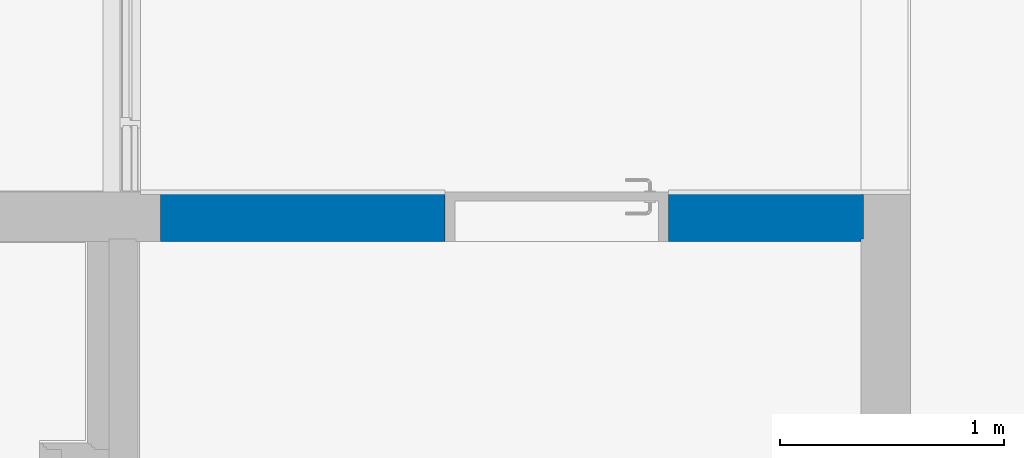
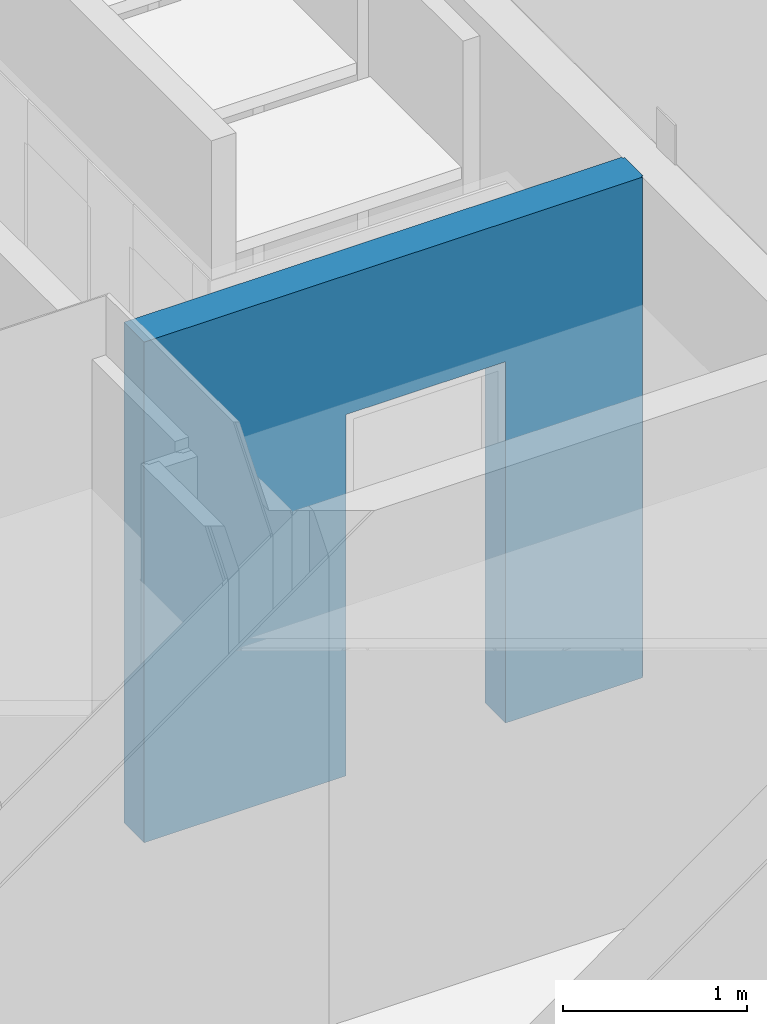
# One storey, part 117 of 246: 1 wall, 1 opening.
"""IFC2X3 building model written with IfcOpenShell, lengths in millimetres."""

from ifc_helpers import new_model, entity, si_unit, converted_unit, derived_unit, money_unit, direction, frame, origin_with_axes, place, context, subcontext, project, spatial, faceted_brep, material, material_list, type_object, element, save


model = new_model("IFC2X3")

# Units and contexts
model_context = context("Model", 3, precision=0.01, world=origin_with_axes(), true_north=direction((0.0, 1.0)))
body_context = subcontext(model_context, "Body", "Model", "MODEL_VIEW")
ifc_project = project(units=[si_unit("LENGTHUNIT", "METRE", prefix="MILLI"), si_unit("AREAUNIT", "SQUARE_METRE"), si_unit("VOLUMEUNIT", "CUBIC_METRE"), converted_unit("PLANEANGLEUNIT", "DEGREE", entity("IfcPlaneAngleMeasure", 0.0174532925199), si_unit("PLANEANGLEUNIT", "RADIAN"), dimensions=[0, 0, 0, 0, 0, 0, 0]), si_unit("SOLIDANGLEUNIT", "STERADIAN"), money_unit("EUR"), converted_unit("TIMEUNIT", "Year", entity("IfcTimeMeasure", 31556926.0), si_unit("TIMEUNIT", "SECOND"), dimensions=[0, 0, 1, 0, 0, 0, 0]), si_unit("MASSUNIT", "GRAM", prefix="KILO"), si_unit("THERMODYNAMICTEMPERATUREUNIT", "DEGREE_CELSIUS"), si_unit("LUMINOUSINTENSITYUNIT", "LUMEN"), si_unit("ENERGYUNIT", "JOULE", prefix="MEGA"), derived_unit("THERMALCONDUCTANCEUNIT", [(si_unit("POWERUNIT", "WATT"), 1), (si_unit("LENGTHUNIT", "METRE"), -1), (si_unit("THERMODYNAMICTEMPERATUREUNIT", "KELVIN"), -1)]), derived_unit("SPECIFICHEATCAPACITYUNIT", [(si_unit("ENERGYUNIT", "JOULE"), 1), (si_unit("MASSUNIT", "GRAM", prefix="KILO"), -1), (si_unit("THERMODYNAMICTEMPERATUREUNIT", "KELVIN"), -1)]), derived_unit("MASSDENSITYUNIT", [(si_unit("MASSUNIT", "GRAM", prefix="KILO"), 1), (si_unit("VOLUMEUNIT", "CUBIC_METRE"), -1)])], contexts=[model_context])

# Site, building, storey
site_placement = place(None, origin_with_axes())
site = spatial("IfcSite", under=ifc_project, at=site_placement, Name="L.Koidula tn 11b", CompositionType="ELEMENT")
building_placement = place(site_placement, origin_with_axes())
building = spatial("IfcBuilding", under=site, at=building_placement, Name="Rakvere Riigigümnaasium", CompositionType="ELEMENT")
storey_placement = place(building_placement, origin_with_axes())
storey = spatial("IfcBuildingStorey", under=building, at=storey_placement, Name="1.korrus 0,00", CompositionType="ELEMENT", Elevation=0.0)

# Wall, opening
ifc_material_1 = material(Name="siseviimistlus-seinad")
ifc_material_2 = material(Name="Betoon element / plaat")
ifc_material_list = material_list([ifc_material_1, ifc_material_2, ifc_material_1])
wall_type = type_object("IfcWallType", Name="SS-01-2 220", PredefinedType="NOTDEFINED")
wall_placement = place(storey_placement, frame((44599.9999911, 17110.4555123, 0.0), z_axis=(0.0, 0.0, 1.0), x_axis=(-1.0, 0.0, 0.0)))
wall = element("IfcWall", 1, at=wall_placement, inside=storey, type_object=wall_type, material=ifc_material_list, Name="Sisesein", context=body_context, shape_type="Brep", body=[
    faceted_brep([(2070.00002852, 0.0, 2400.0), (2070.00002852, 0.0, 0.0), (3339.9990116, 0.0, 0.0), (3339.9990116, 0.0, 3325.0), (210.0, 0.0, 3325.0), (210.0, 0.0, 0.0), (1070.00002852, 0.0, 0.0), (1070.00002852, 0.0, 2400.0), (2070.00002852, 10.0, 2400.0), (2070.00002852, 10.0, 0.0), (3339.9990116, 10.0, 0.0), (3339.9990116, 10.0, 3325.0), (210.0, 10.0, 3325.0), (210.0, 10.0, 0.0), (1070.00002852, 10.0, 0.0), (1070.00002852, 10.0, 2400.0)], [[[0, 1, 2, 3, 4, 5, 6, 7]], [[1, 0, 8, 9]], [[1, 9, 10, 2]], [[3, 2, 10, 11]], [[4, 3, 11, 12]], [[12, 13, 5, 4]], [[14, 6, 5, 13]], [[7, 6, 14, 15]], [[0, 7, 15, 8]], [[15, 14, 13, 12, 11, 10, 9, 8]]]),
    faceted_brep([(1070.00002852, -199.999997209, 2400.0), (2070.00002852, -199.999997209, 2400.0), (2070.00002852, -200.0, 0.0), (3339.9990116, -200.0, 0.0), (3339.9990116, -200.0, 3325.0), (620.00015388, -199.999997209, 3325.0), (200.0, -199.999997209, 3325.0), (200.0, -200.0, 0.0), (1070.00002852, -200.0, 0.0), (2070.00002852, 0.0, 2400.0), (1070.00002852, 0.0, 2400.0), (2070.00002852, 0.0, 0.0), (3339.9990116, 0.0, 0.0), (3339.9990116, 0.0, 3325.0), (200.0, 0.0, 3325.0), (200.0, 0.0, 0.0), (1070.00002852, 0.0, 0.0)], [[[0, 1, 2, 3, 4, 5, 6, 7, 8]], [[9, 1, 0, 10]], [[11, 2, 1, 9]], [[3, 2, 11, 12]], [[13, 4, 3, 12]], [[6, 5, 4, 13, 14]], [[6, 14, 15, 7]], [[15, 16, 8, 7]], [[10, 0, 8, 16]], [[9, 10, 16, 15, 14, 13, 12, 11]]]),
    faceted_brep([(1070.00002852, -210.0, 2400.0), (2070.00002852, -210.0, 2400.0), (2070.00002852, -210.0, 0.0), (3339.9990116, -210.0, 0.0), (3339.9990116, -210.0, 3325.0), (210.0, -210.0, 3325.0), (210.0, -210.0, 0.0), (1070.00002852, -210.0, 0.0), (2070.00002852, -199.99986588, 2400.0), (1070.00002852, -199.99986588, 2400.0), (2070.00002852, -200.0, 0.0), (3339.9990116, -200.0, 0.0), (3339.9990116, -200.0, 3325.0), (620.000187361, -199.99986588, 3325.0), (210.0, -199.99986588, 3325.0), (210.0, -200.0, 0.0), (1070.00002852, -200.0, 0.0)], [[[0, 1, 2, 3, 4, 5, 6, 7]], [[8, 1, 0, 9]], [[10, 2, 1, 8]], [[3, 2, 10, 11]], [[12, 4, 3, 11]], [[4, 12, 13, 14, 5]], [[5, 14, 15, 6]], [[15, 16, 7, 6]], [[9, 0, 7, 16]], [[8, 9, 16, 15, 14, 13, 12, 11, 10]]]),
])
opening_placement = place(wall_placement, frame((1570.00002852, 0.0, 0.0), z_axis=(0.0, 0.0, 1.0), x_axis=(1.0, 0.0, 0.0)))
element("IfcOpeningElement", 2, at=opening_placement, cuts=wall, Name="SU-029", context=body_context, shape_type="Brep", body=[
    faceted_brep([(500.0, -440.0, 2400.0), (500.0, -440.0, 0.0), (500.0, 220.0, 0.0), (500.0, 220.0, 2400.0), (-500.0, -440.0, 2400.0), (-500.0, -440.0, 0.0), (-500.0, 220.0, 0.0), (-500.0, 220.0, 2400.0)], [[[0, 1, 2, 3]], [[0, 4, 5, 1]], [[1, 5, 6, 2]], [[3, 2, 6, 7]], [[4, 0, 3, 7]], [[5, 4, 7, 6]]]),
])

save(model, "model.ifc")
